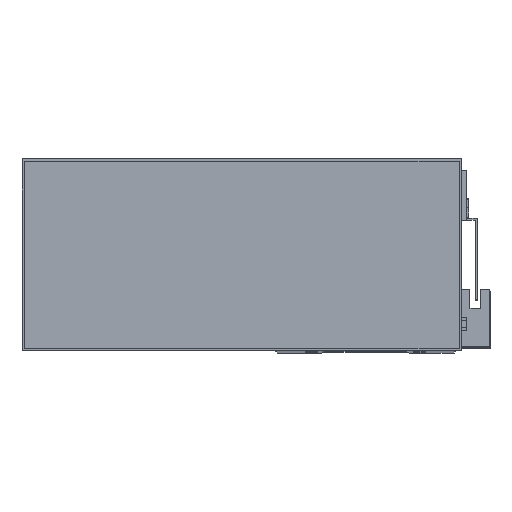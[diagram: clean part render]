
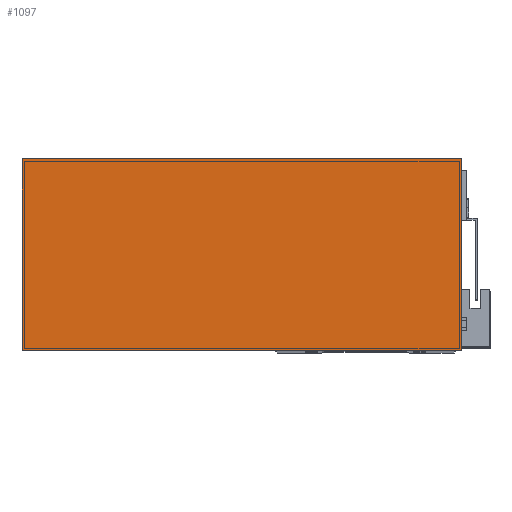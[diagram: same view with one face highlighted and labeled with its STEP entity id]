
A CAD part, top view. The second image highlights one B-rep face of the part: STEP entity #1097.
In plain terms, the highlighted planar face has unit normal (0, 0, 1).
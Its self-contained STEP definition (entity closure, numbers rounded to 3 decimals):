
#821 = DIRECTION ( 'NONE',  ( 0., -1., 0. ) ) ;
#1097 = ADVANCED_FACE ( 'NONE', ( #2532 ), #17067, .T. ) ;
#2532 = FACE_OUTER_BOUND ( 'NONE', #17176, .T. ) ;
#2550 = DIRECTION ( 'NONE',  ( 1., 0., 0. ) ) ;
#2693 = DIRECTION ( 'NONE',  ( 1., 0., 0. ) ) ;
#3014 = DIRECTION ( 'NONE',  ( 0., 0., 1. ) ) ;
#4140 = LINE ( 'NONE', #8613, #14364 ) ;
#4239 = ORIENTED_EDGE ( 'NONE', *, *, #11779, .T. ) ;
#5071 = CARTESIAN_POINT ( 'NONE',  ( 87., -1., 46. ) ) ;
#6154 = LINE ( 'NONE', #8703, #6219 ) ;
#6219 = VECTOR ( 'NONE', #21005, 1000. ) ;
#8613 = CARTESIAN_POINT ( 'NONE',  ( -1., 201., 46. ) ) ;
#8703 = CARTESIAN_POINT ( 'NONE',  ( 87., 201., 46. ) ) ;
#10419 = DIRECTION ( 'NONE',  ( -1., 0., 0. ) ) ;
#10841 = AXIS2_PLACEMENT_3D ( 'NONE', #15146, #3014, #2550 ) ;
#10868 = CARTESIAN_POINT ( 'NONE',  ( 87., 201., 46. ) ) ;
#11779 = EDGE_CURVE ( 'NONE', #18761, #16088, #15566, .T. ) ;
#12743 = ORIENTED_EDGE ( 'NONE', *, *, #18476, .T. ) ;
#13308 = CARTESIAN_POINT ( 'NONE',  ( -1., -1., 46. ) ) ;
#14364 = VECTOR ( 'NONE', #10419, 1000. ) ;
#14858 = CARTESIAN_POINT ( 'NONE',  ( -1., 201., 46. ) ) ;
#15146 = CARTESIAN_POINT ( 'NONE',  ( 0., 0., 46. ) ) ;
#15212 = ORIENTED_EDGE ( 'NONE', *, *, #16170, .T. ) ;
#15563 = VECTOR ( 'NONE', #821, 1000. ) ;
#15566 = LINE ( 'NONE', #18537, #15563 ) ;
#16088 = VERTEX_POINT ( 'NONE', #18054 ) ;
#16170 = EDGE_CURVE ( 'NONE', #16088, #18521, #16254, .T. ) ;
#16182 = ORIENTED_EDGE ( 'NONE', *, *, #20167, .T. ) ;
#16254 = LINE ( 'NONE', #13308, #21678 ) ;
#17067 = PLANE ( 'NONE',  #10841 ) ;
#17176 = EDGE_LOOP ( 'NONE', ( #4239, #15212, #16182, #12743 ) ) ;
#18054 = CARTESIAN_POINT ( 'NONE',  ( -1., -1., 46. ) ) ;
#18476 = EDGE_CURVE ( 'NONE', #21106, #18761, #4140, .T. ) ;
#18521 = VERTEX_POINT ( 'NONE', #5071 ) ;
#18537 = CARTESIAN_POINT ( 'NONE',  ( -1., 201., 46. ) ) ;
#18761 = VERTEX_POINT ( 'NONE', #14858 ) ;
#20167 = EDGE_CURVE ( 'NONE', #18521, #21106, #6154, .T. ) ;
#21005 = DIRECTION ( 'NONE',  ( 0., 1., 0. ) ) ;
#21106 = VERTEX_POINT ( 'NONE', #10868 ) ;
#21678 = VECTOR ( 'NONE', #2693, 1000. ) ;
